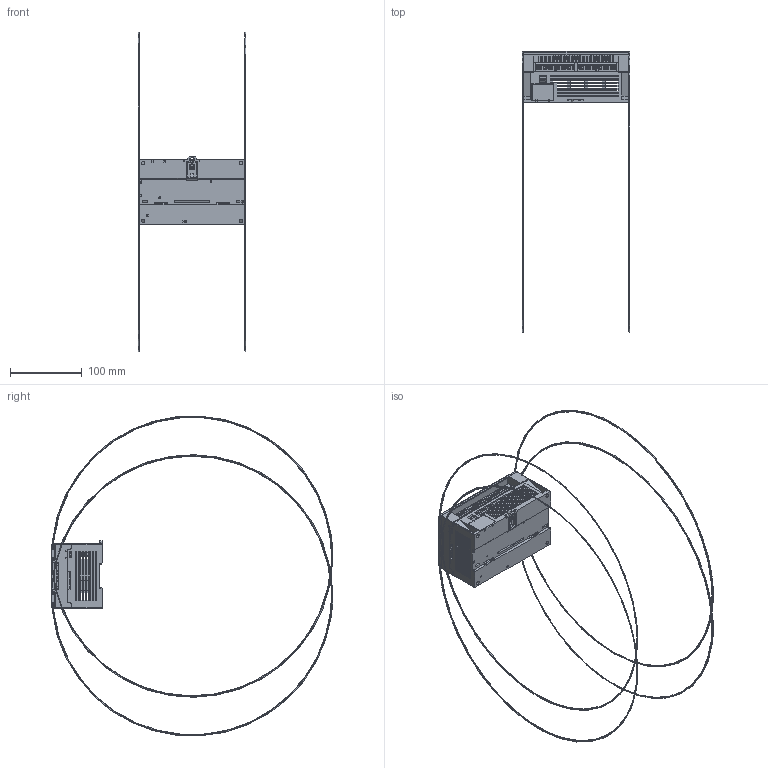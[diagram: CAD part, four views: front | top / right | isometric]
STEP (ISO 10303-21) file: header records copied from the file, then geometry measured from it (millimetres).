
FILE_DESCRIPTION((''),'2;1');
FILE_NAME('32POINTS-2','2023-05-25T14:07:37',('Cyclone_Aero15X'),(''),'CREO PARAMETRIC BY PTC INC, 2019080','CREO PARAMETRIC BY PTC INC, 2019080','');
FILE_SCHEMA(('CONFIG_CONTROL_DESIGN'));
Products named in the file (1): 32POINTS-2
Bounding box: 150.2 x 392.58 x 446 mm (x, y, z)
Surface area: 229782.9 mm2 (no closed solid volume)
Topology: 0 solids, 0 shells, 3835 faces, 23217 edges, 23147 vertices
Faces by surface type: plane 2765, cylinder 930, torus 62, bspline 39, cone 20, extrusion 12, sphere 7
Entity records: 356710 total; most frequent: CARTESIAN_POINT 86451, DIRECTION 51656, TRIMMED_CURVE 41743, VECTOR 39422, LINE 39410, DEFINITIONAL_REPRESENTATION 23086, PCURVE 23086, COMPOSITE_CURVE_SEGMENT 23086
